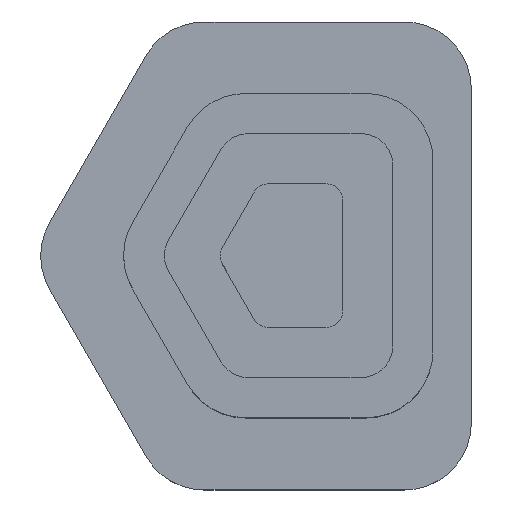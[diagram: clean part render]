
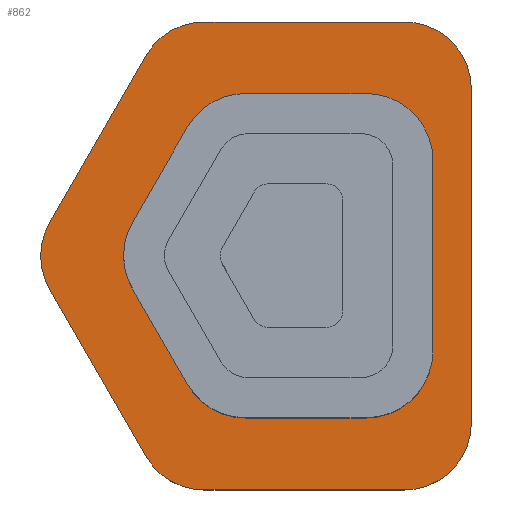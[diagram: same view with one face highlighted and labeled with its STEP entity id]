
A CAD part, top view. The second image highlights one B-rep face of the part: STEP entity #862.
In plain terms, the highlighted planar face has unit normal (0, 0, 1).
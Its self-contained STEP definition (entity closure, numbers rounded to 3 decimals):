
#64=CARTESIAN_POINT('',(2.5,5.,1.));
#65=DIRECTION('',(0.,0.,1.));
#66=DIRECTION('',(1.,0.,0.));
#67=AXIS2_PLACEMENT_3D('',#64,#65,#66);
#69=DIRECTION('',(0.,-1.,0.));
#70=VECTOR('',#69,10.);
#71=CARTESIAN_POINT('',(4.5,5.,1.));
#72=LINE('',#71,#70);
#73=CARTESIAN_POINT('',(2.5,-5.,1.));
#74=DIRECTION('',(0.,0.,1.));
#75=DIRECTION('',(0.,-1.,0.));
#76=AXIS2_PLACEMENT_3D('',#73,#74,#75);
#78=DIRECTION('',(-1.,0.,0.));
#79=VECTOR('',#78,6.);
#80=CARTESIAN_POINT('',(2.5,-7.,1.));
#81=LINE('',#80,#79);
#82=CARTESIAN_POINT('',(-3.5,-5.,1.));
#83=DIRECTION('',(0.,0.,1.));
#84=DIRECTION('',(-0.866,-0.5,0.));
#85=AXIS2_PLACEMENT_3D('',#82,#83,#84);
#87=DIRECTION('',(-0.5,0.866,0.));
#88=VECTOR('',#87,5.774);
#89=CARTESIAN_POINT('',(-5.232,-6.,1.));
#90=LINE('',#89,#88);
#91=CARTESIAN_POINT('',(-6.387,0.,1.));
#92=DIRECTION('',(0.,0.,1.));
#93=DIRECTION('',(-0.866,0.5,0.));
#94=AXIS2_PLACEMENT_3D('',#91,#92,#93);
#96=DIRECTION('',(0.5,0.866,0.));
#97=VECTOR('',#96,5.774);
#98=CARTESIAN_POINT('',(-8.119,1.,1.));
#99=LINE('',#98,#97);
#100=CARTESIAN_POINT('',(-3.5,5.,1.));
#101=DIRECTION('',(0.,0.,1.));
#102=DIRECTION('',(0.,1.,0.));
#103=AXIS2_PLACEMENT_3D('',#100,#101,#102);
#105=DIRECTION('',(1.,0.,0.));
#106=VECTOR('',#105,6.);
#107=CARTESIAN_POINT('',(-3.5,7.,1.));
#108=LINE('',#107,#106);
#113=DIRECTION('',(-1.,0.,0.));
#114=VECTOR('',#113,3.609);
#115=CARTESIAN_POINT('',(1.35,4.85,1.));
#116=LINE('',#115,#114);
#121=CARTESIAN_POINT('',(-2.259,2.85,1.));
#122=DIRECTION('',(0.,0.,-1.));
#123=DIRECTION('',(-0.866,0.5,0.));
#124=AXIS2_PLACEMENT_3D('',#121,#122,#123);
#261=CARTESIAN_POINT('',(-3.904,0.,1.));
#262=DIRECTION('',(0.,0.,-1.));
#263=DIRECTION('',(-0.866,-0.5,0.));
#264=AXIS2_PLACEMENT_3D('',#261,#262,#263);
#270=DIRECTION('',(-0.5,-0.866,0.));
#271=VECTOR('',#270,3.291);
#272=CARTESIAN_POINT('',(-3.991,3.85,1.));
#273=LINE('',#272,#271);
#286=DIRECTION('',(0.5,-0.866,0.));
#287=VECTOR('',#286,3.291);
#288=CARTESIAN_POINT('',(-5.636,-1.,1.));
#289=LINE('',#288,#287);
#290=CARTESIAN_POINT('',(-2.259,-2.85,1.));
#291=DIRECTION('',(0.,0.,-1.));
#292=DIRECTION('',(0.,-1.,0.));
#293=AXIS2_PLACEMENT_3D('',#290,#291,#292);
#303=DIRECTION('',(1.,0.,0.));
#304=VECTOR('',#303,3.609);
#305=CARTESIAN_POINT('',(-2.259,-4.85,1.));
#306=LINE('',#305,#304);
#307=CARTESIAN_POINT('',(1.35,-2.85,1.));
#308=DIRECTION('',(0.,0.,-1.));
#309=DIRECTION('',(1.,0.,0.));
#310=AXIS2_PLACEMENT_3D('',#307,#308,#309);
#320=DIRECTION('',(0.,1.,0.));
#321=VECTOR('',#320,5.7);
#322=CARTESIAN_POINT('',(3.35,-2.85,1.));
#323=LINE('',#322,#321);
#324=CARTESIAN_POINT('',(1.35,2.85,1.));
#325=DIRECTION('',(0.,0.,-1.));
#326=DIRECTION('',(0.,1.,0.));
#327=AXIS2_PLACEMENT_3D('',#324,#325,#326);
#567=CARTESIAN_POINT('',(-2.259,-4.85,1.));
#568=CARTESIAN_POINT('',(1.35,-4.85,1.));
#569=VERTEX_POINT('',#567);
#570=VERTEX_POINT('',#568);
#571=CARTESIAN_POINT('',(3.35,-2.85,1.));
#572=CARTESIAN_POINT('',(3.35,2.85,1.));
#573=VERTEX_POINT('',#571);
#574=VERTEX_POINT('',#572);
#575=CARTESIAN_POINT('',(1.35,4.85,1.));
#576=CARTESIAN_POINT('',(-2.259,4.85,1.));
#577=VERTEX_POINT('',#575);
#578=VERTEX_POINT('',#576);
#579=CARTESIAN_POINT('',(-3.991,3.85,1.));
#580=CARTESIAN_POINT('',(-5.636,1.,1.));
#581=VERTEX_POINT('',#579);
#582=VERTEX_POINT('',#580);
#583=CARTESIAN_POINT('',(-5.636,-1.,1.));
#584=CARTESIAN_POINT('',(-3.991,-3.85,1.));
#585=VERTEX_POINT('',#583);
#586=VERTEX_POINT('',#584);
#591=CARTESIAN_POINT('',(4.5,5.,1.));
#592=VERTEX_POINT('',#591);
#593=CARTESIAN_POINT('',(2.5,7.,1.));
#594=VERTEX_POINT('',#593);
#595=CARTESIAN_POINT('',(-3.5,7.,1.));
#596=CARTESIAN_POINT('',(-5.232,6.,1.));
#597=VERTEX_POINT('',#595);
#598=VERTEX_POINT('',#596);
#603=CARTESIAN_POINT('',(-8.119,1.,1.));
#604=CARTESIAN_POINT('',(-8.119,-1.,1.));
#605=VERTEX_POINT('',#603);
#606=VERTEX_POINT('',#604);
#611=CARTESIAN_POINT('',(2.5,-7.,1.));
#612=CARTESIAN_POINT('',(4.5,-5.,1.));
#613=VERTEX_POINT('',#611);
#614=VERTEX_POINT('',#612);
#619=CARTESIAN_POINT('',(-5.232,-6.,1.));
#620=CARTESIAN_POINT('',(-3.5,-7.,1.));
#621=VERTEX_POINT('',#619);
#622=VERTEX_POINT('',#620);
#816=CARTESIAN_POINT('',(0.,0.,1.));
#817=DIRECTION('',(0.,0.,-1.));
#818=DIRECTION('',(1.,0.,0.));
#819=AXIS2_PLACEMENT_3D('',#816,#817,#818);
#820=PLANE('',#819);
#821=ORIENTED_EDGE('',*,*,#781,.F.);
#822=ORIENTED_EDGE('',*,*,#797,.T.);
#823=ORIENTED_EDGE('',*,*,#807,.F.);
#825=ORIENTED_EDGE('',*,*,#824,.T.);
#827=ORIENTED_EDGE('',*,*,#826,.F.);
#829=ORIENTED_EDGE('',*,*,#828,.T.);
#831=ORIENTED_EDGE('',*,*,#830,.F.);
#833=ORIENTED_EDGE('',*,*,#832,.T.);
#835=ORIENTED_EDGE('',*,*,#834,.F.);
#837=ORIENTED_EDGE('',*,*,#836,.T.);
#838=EDGE_LOOP('',(#821,#822,#823,#825,#827,#829,#831,#833,#835,#837));
#839=FACE_OUTER_BOUND('',#838,.F.);
#841=ORIENTED_EDGE('',*,*,#840,.T.);
#843=ORIENTED_EDGE('',*,*,#842,.F.);
#845=ORIENTED_EDGE('',*,*,#844,.T.);
#847=ORIENTED_EDGE('',*,*,#846,.F.);
#849=ORIENTED_EDGE('',*,*,#848,.T.);
#851=ORIENTED_EDGE('',*,*,#850,.F.);
#853=ORIENTED_EDGE('',*,*,#852,.T.);
#855=ORIENTED_EDGE('',*,*,#854,.F.);
#857=ORIENTED_EDGE('',*,*,#856,.T.);
#859=ORIENTED_EDGE('',*,*,#858,.F.);
#860=EDGE_LOOP('',(#841,#843,#845,#847,#849,#851,#853,#855,#857,#859));
#861=FACE_BOUND('',#860,.F.);
#862=ADVANCED_FACE('',(#839,#861),#820,.F.);
#68=CIRCLE('',#67,2.);
#77=CIRCLE('',#76,2.);
#86=CIRCLE('',#85,2.);
#95=CIRCLE('',#94,2.);
#104=CIRCLE('',#103,2.);
#125=CIRCLE('',#124,2.);
#265=CIRCLE('',#264,2.);
#294=CIRCLE('',#293,2.);
#311=CIRCLE('',#310,2.);
#328=CIRCLE('',#327,2.);
#781=EDGE_CURVE('',#592,#594,#68,.T.);
#797=EDGE_CURVE('',#592,#614,#72,.T.);
#807=EDGE_CURVE('',#613,#614,#77,.T.);
#824=EDGE_CURVE('',#613,#622,#81,.T.);
#826=EDGE_CURVE('',#621,#622,#86,.T.);
#828=EDGE_CURVE('',#621,#606,#90,.T.);
#830=EDGE_CURVE('',#605,#606,#95,.T.);
#832=EDGE_CURVE('',#605,#598,#99,.T.);
#834=EDGE_CURVE('',#597,#598,#104,.T.);
#836=EDGE_CURVE('',#597,#594,#108,.T.);
#840=EDGE_CURVE('',#577,#578,#116,.T.);
#842=EDGE_CURVE('',#581,#578,#125,.T.);
#844=EDGE_CURVE('',#581,#582,#273,.T.);
#846=EDGE_CURVE('',#585,#582,#265,.T.);
#848=EDGE_CURVE('',#585,#586,#289,.T.);
#850=EDGE_CURVE('',#569,#586,#294,.T.);
#852=EDGE_CURVE('',#569,#570,#306,.T.);
#854=EDGE_CURVE('',#573,#570,#311,.T.);
#856=EDGE_CURVE('',#573,#574,#323,.T.);
#858=EDGE_CURVE('',#577,#574,#328,.T.);
